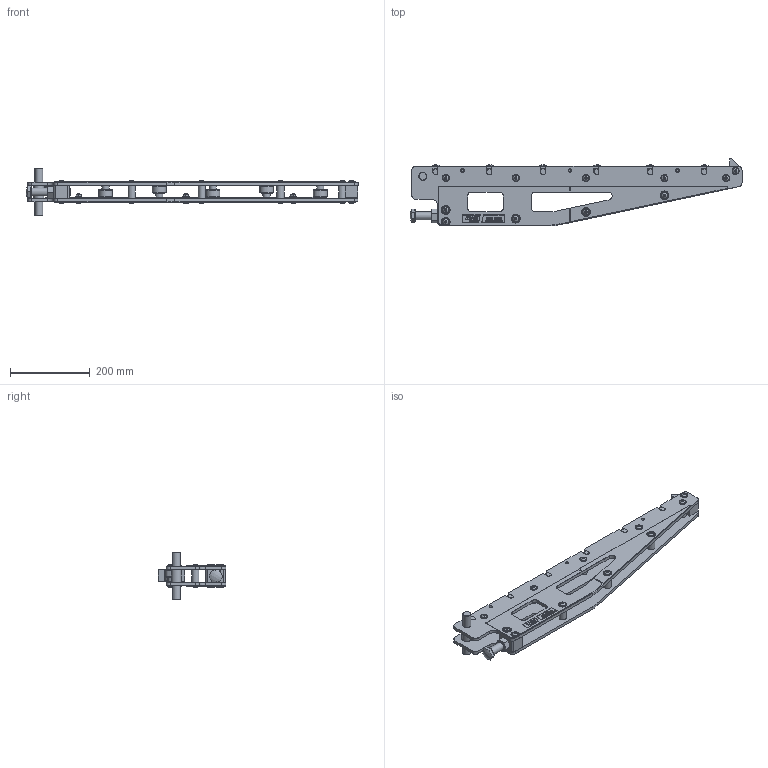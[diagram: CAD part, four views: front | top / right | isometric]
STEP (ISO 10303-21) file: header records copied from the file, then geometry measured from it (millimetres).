
FILE_DESCRIPTION(/* description */ ('CONSOLE PLATE'),/* implementation_level */ '2;1');
FILE_NAME(/* name */ 'C:\Users\jaccow\AppData\Local\Temp\Cadac\NetworkPub\step\FB889-950.iam.stp',/* time_stamp */ '2017-12-14T11:41:30+01:00',/* author */ ('terlouwm'),/* organization */ (''),/* preprocessor_version */ 'ST-DEVELOPER v16.1',/* originating_system */ 'Autodesk Inventor 2016',/* authorisation */ '');
FILE_SCHEMA (('AUTOMOTIVE_DESIGN { 1 0 10303 214 3 1 1 }'));
Length unit declared in the file: millimetre
Products named in the file (17): FB751-101; FB751-186; FB755-104; FB754-044; FB662-101; FB757-690; DQ1504-281; FB627-104; CCE820-028-9A; CAE1080-1081A; CBB1080-1201D; CBE1200-1201D; DQ1509-028; FB756-104; FB890-026; FB891-026; FB889-950
Assembly tree (62 placements, depth 2):
  FB889-950
    FB751-101  x2
    FB751-186  x8
    FB755-104
    FB754-044
    FB662-101
    FB757-690
    DQ1504-281  x6
    FB627-104  x6
    CCE820-028-9A  x25
    CAE1080-1081A  x3
    CBB1080-1201D  x3
    CBE1200-1201D
    DQ1509-028
    FB756-104
    FB890-026
    FB891-026
Bounding box: 834.78 x 170.17 x 120 mm (x, y, z)
Volume: 1816641.7 mm3; surface area: 720283.4 mm2
Topology: 88 solids, 88 shells, 3330 faces, 8147 edges, 5306 vertices
Faces by surface type: plane 1927, bspline 652, cylinder 358, cone 295, torus 97, sphere 1
Full cylindrical faces by diameter (mm): 1.215 x6, 2.4 x6, 6.647 x14, 8 x25, 8.4 x3, 9 x26, 11 x3, 11.95 x1, 12 x2, 12.1 x1, 15 x12, 17 x3, 17.294 x2, 17.8 x25, 18 x14, 18.6 x6, 20 x5, 22 x8, 23.4 x6, 25 x1, 27.6 x24, 30 x1, 35 x6
Entity records: 77023 total; most frequent: CARTESIAN_POINT 22637, ORIENTED_EDGE 11964, DIRECTION 8542, EDGE_CURVE 5973, LINE 4304, VECTOR 4304, VERTEX_POINT 4020, EDGE_LOOP 2702
